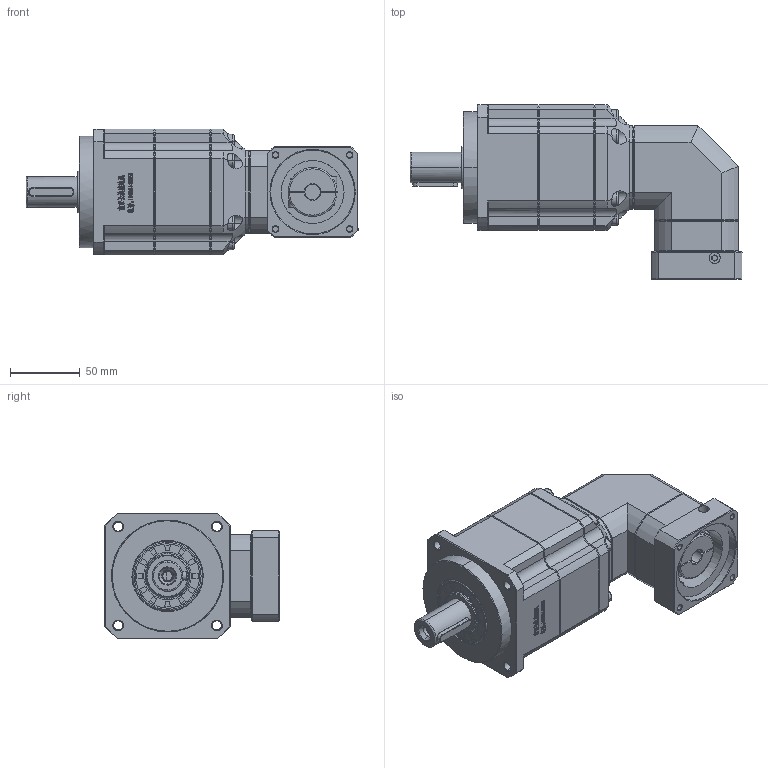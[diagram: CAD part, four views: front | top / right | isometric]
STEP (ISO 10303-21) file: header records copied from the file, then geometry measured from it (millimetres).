
FILE_DESCRIPTION (( 'STEP AP214' ), '1' );
FILE_NAME ('ZPBR090-D22-L3-P1-11-60-75-M5.step', '2024-06-07T18:37:24', ( 'Windows 蚚誧' ), ( 'Organization' ), 'SwSTEP 2.0', 'SolidWorks 2016', '' );
FILE_SCHEMA (( 'AUTOMOTIVE_DESIGN' ));
Length unit declared in the file: millimetre
Products named in the file (1): ZPBR090-D22-L3-P1-11-60-75-M5
Bounding box: 237.5 x 125 x 90 mm (x, y, z)
Surface area: 102670.7 mm2 (no closed solid volume)
Topology: 0 solids, 30 shells, 2088 faces, 5508 edges, 3507 vertices
Faces by surface type: plane 1116, bspline 371, cylinder 295, cone 279, torus 27
Entity records: 102095 total; most frequent: CARTESIAN_POINT 51534, ORIENTED_EDGE 10978, DIRECTION 7398, EDGE_CURVE 5508, VERTEX_POINT 3507, LINE 2586, VECTOR 2586, AXIS2_PLACEMENT_3D 2406
